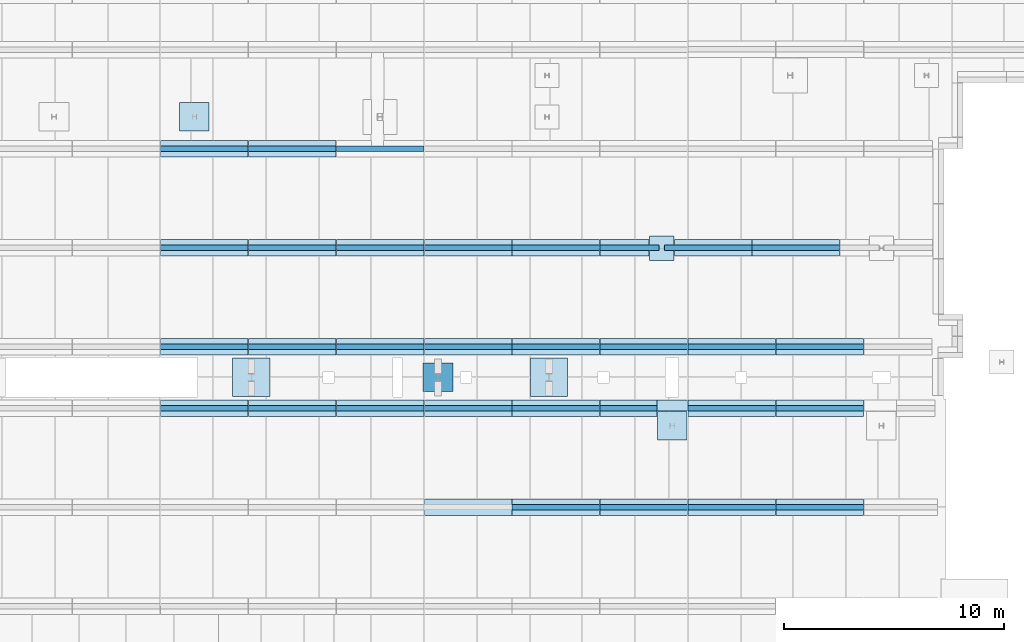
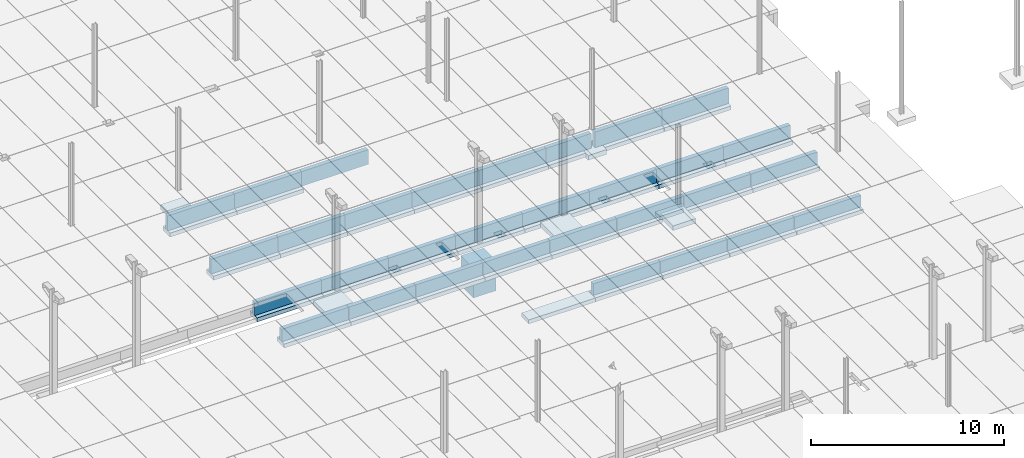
# One storey, part 8 of 59: 69 footings.
"""IFC2X3 building model written with IfcOpenShell, lengths in metres."""

from ifc_helpers import new_model, entity, si_unit, converted_unit, derived_unit, frame, frame_2d, origin, origin_with_axes, place, context, subcontext, project, spatial, rectangle, extrude, material, element, save


model = new_model("IFC2X3")

# Units and contexts
model_context = context("Model", 3, precision=1e-05, world=origin())
body_context = subcontext(model_context, "Body", "Model", "MODEL_VIEW")
ifc_project = project(units=[si_unit("LENGTHUNIT", "METRE"), si_unit("AREAUNIT", "SQUARE_METRE"), si_unit("VOLUMEUNIT", "CUBIC_METRE"), si_unit("MASSUNIT", "GRAM", prefix="KILO"), converted_unit("PLANEANGLEUNIT", "DEGREE", entity("IfcPlaneAngleMeasure", 0.0174532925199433), si_unit("PLANEANGLEUNIT", "RADIAN"), dimensions=[0, 0, 0, 0, 0, 0, 0]), derived_unit("THERMALTRANSMITTANCEUNIT", [(si_unit("POWERUNIT", "WATT"), 1), (si_unit("THERMODYNAMICTEMPERATUREUNIT", "KELVIN"), -1), (si_unit("LENGTHUNIT", "METRE"), -2)]), derived_unit("VOLUMETRICFLOWRATEUNIT", [(si_unit("LENGTHUNIT", "METRE"), 3), (converted_unit("TIMEUNIT", "hour", entity("IfcTimeMeasure", 3600.0), si_unit("TIMEUNIT", "SECOND"), dimensions=[0, 0, 1, 0, 0, 0, 0]), -1), (si_unit("LENGTHUNIT", "METRE"), -1)])], contexts=[model_context])

# Site, building, storey
site_placement = place(None, origin())
site = spatial("IfcSite", under=ifc_project, at=site_placement, Name="TWP_Speiseverteilzentrum SBW VZ II", CompositionType="ELEMENT")
building_placement = place(site_placement, origin())
building = spatial("IfcBuilding", under=site, at=building_placement, Name="Speiseverteilzentrum SBW VZ II", CompositionType="ELEMENT")
storey_placement = place(building_placement, frame((0.0, 0.0, 1.7307)))
storey = spatial("IfcBuildingStorey", under=building, at=storey_placement, Name="EG_Produktion_FFB", CompositionType="ELEMENT", Elevation=1.7307)

# Footings
ifc_material_1 = material(Name="Stahlbeton")
footing_1_placement = place(storey_placement, frame((55.8544595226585, 56.9296420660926, -1.75)))
element("IfcFooting", 1, at=footing_1_placement, inside=storey, material=ifc_material_1, Name="Stb.-Einzelfundament", ObjectType="COLUMN_FOUNDATION", PredefinedType="USERDEFINED", context=body_context, shape_type="SweptSolid", body=[
    extrude(rectangle(XDim=1.1, YDim=1.1, at=frame_2d((0.55, 0.55), x_axis=(1.0, 0.0))), origin_with_axes(), (0.0, 0.0, 1.0), 0.3),
])
ifc_material_2 = material(Name="Stahlbeton")
footing_2_placement = place(storey_placement, frame((56.2000000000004, 48.7500000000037, -1.35)))
element("IfcFooting", 2, at=footing_2_placement, inside=storey, material=ifc_material_2, Name="Stb.-Einzelfundament", ObjectType="COLUMN_FOUNDATION", PredefinedType="USERDEFINED", context=body_context, shape_type="SweptSolid", body=[
    extrude(rectangle(XDim=1.35, YDim=1.3, at=frame_2d((0.675, 0.65), x_axis=(1.0, 0.0))), origin_with_axes(), (0.0, 0.0, 1.0), 0.3),
])
ifc_material_3 = material(Name="Stahlbeton")
footing_3_placement = place(storey_placement, frame((50.4249999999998, 50.7251031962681, -1.35)))
element("IfcFooting", 3, at=footing_3_placement, inside=storey, material=ifc_material_3, Name="Stb.-Einzelfundament", ObjectType="COLUMN_FOUNDATION", PredefinedType="USERDEFINED", context=body_context, shape_type="SweptSolid", body=[
    extrude(rectangle(XDim=1.7, YDim=1.75, at=frame_2d((0.85, 0.875), x_axis=(1.0, 0.0))), origin_with_axes(), (0.0, 0.0, 1.0), 0.3),
])
ifc_material_4 = material(Name="Stahlbeton")
footing_4_placement = place(storey_placement, frame((45.5499999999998, 50.9501031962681, -3.21)))
element("IfcFooting", 4, at=footing_4_placement, inside=storey, material=ifc_material_4, Name="Stb.-Einzelfundament", ObjectType="COLUMN_FOUNDATION", PredefinedType="USERDEFINED", context=body_context, shape_type="SweptSolid", body=[
    extrude(rectangle(XDim=1.35, YDim=1.3, at=frame_2d((0.675, 0.65), x_axis=(1.0, 0.0))), origin_with_axes(), (0.0, 0.0, 1.0), 1.9),
])
ifc_material_5 = material(Name="Stahlbeton")
footing_5_placement = place(storey_placement, frame((36.8749999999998, 50.7251031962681, -1.57)))
element("IfcFooting", 5, at=footing_5_placement, inside=storey, material=ifc_material_5, Name="Stb.-Einzelfundament", ObjectType="COLUMN_FOUNDATION", PredefinedType="USERDEFINED", context=body_context, shape_type="SweptSolid", body=[
    extrude(rectangle(XDim=1.7, YDim=1.75, at=frame_2d((0.85, 0.875), x_axis=(1.0, 0.0))), origin_with_axes(), (0.0, 0.0, 1.0), 0.3),
])
ifc_material_6 = material(Name="Stahlbetonfertigteil")
footing_6_placement = place(storey_placement, frame((37.5999999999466, 50.0750000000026, -1.25)))
element("IfcFooting", 6, at=footing_6_placement, inside=storey, material=ifc_material_6, Name="Stahlbetonfertigteilfundament", PredefinedType="STRIP_FOOTING", context=body_context, shape_type="SweptSolid", body=[
    extrude(rectangle(XDim=0.25, YDim=0.78, at=frame_2d((0.125, 0.39), x_axis=(1.0, 0.0))), frame((0.0, 0.0, 0.0), z_axis=(1.0, 0.0, 0.0), x_axis=(0.0, 1.0, 0.0)), (0.0, 0.0, 1.0), 3.98),
])
ifc_material_7 = material(Name="Stahlbetonfertigteil")
footing_7_placement = place(storey_placement, frame((37.5999999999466, 49.8250000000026, -1.5)))
element("IfcFooting", 7, at=footing_7_placement, inside=storey, material=ifc_material_7, Name="Stahlbetonfertigteilfundament", PredefinedType="STRIP_FOOTING", context=body_context, shape_type="SweptSolid", body=[
    extrude(rectangle(XDim=0.75, YDim=0.25, at=frame_2d((0.375, 0.125), x_axis=(1.0, 0.0))), frame((0.0, 0.0, 0.0), z_axis=(1.0, 0.0, 0.0), x_axis=(0.0, 1.0, 0.0)), (0.0, 0.0, 1.0), 3.98),
])
ifc_material_8 = material(Name="Stahlbetonfertigteil")
footing_8_placement = place(storey_placement, frame((37.5999999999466, 52.8750000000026, -1.3)))
element("IfcFooting", 8, at=footing_8_placement, inside=storey, material=ifc_material_8, Name="Stahlbetonfertigteilfundament", PredefinedType="STRIP_FOOTING", context=body_context, shape_type="SweptSolid", body=[
    extrude(rectangle(XDim=0.25, YDim=0.83, at=frame_2d((0.125, 0.415), x_axis=(1.0, 0.0))), frame((0.0, 0.0, 0.0), z_axis=(1.0, 0.0, 0.0), x_axis=(0.0, 1.0, 0.0)), (0.0, 0.0, 1.0), 3.98),
])
ifc_material_9 = material(Name="Stahlbetonfertigteil")
footing_9_placement = place(storey_placement, frame((37.5999999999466, 52.6250000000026, -1.55)))
element("IfcFooting", 9, at=footing_9_placement, inside=storey, material=ifc_material_9, Name="Stahlbetonfertigteilfundament", PredefinedType="STRIP_FOOTING", context=body_context, shape_type="SweptSolid", body=[
    extrude(rectangle(XDim=0.75, YDim=0.25, at=frame_2d((0.375, 0.125), x_axis=(1.0, 0.0))), frame((0.0, 0.0, 0.0), z_axis=(1.0, 0.0, 0.0), x_axis=(0.0, 1.0, 0.0)), (0.0, 0.0, 1.0), 3.98),
])
ifc_material_10 = material(Name="Stahlbetonfertigteil")
footing_10_placement = place(storey_placement, frame((57.5999999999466, 52.8750000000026, -1.3)))
element("IfcFooting", 10, at=footing_10_placement, inside=storey, material=ifc_material_10, Name="Stahlbetonfertigteilfundament", PredefinedType="STRIP_FOOTING", context=body_context, shape_type="SweptSolid", body=[
    extrude(rectangle(XDim=0.25, YDim=0.83, at=frame_2d((0.125, 0.415), x_axis=(1.0, 0.0))), frame((0.0, 0.0, 0.0), z_axis=(1.0, 0.0, 0.0), x_axis=(0.0, 1.0, 0.0)), (0.0, 0.0, 1.0), 3.98),
])
ifc_material_11 = material(Name="Stahlbetonfertigteil")
footing_11_placement = place(storey_placement, frame((57.5999999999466, 52.6250000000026, -1.55)))
element("IfcFooting", 11, at=footing_11_placement, inside=storey, material=ifc_material_11, Name="Stahlbetonfertigteilfundament", PredefinedType="STRIP_FOOTING", context=body_context, shape_type="SweptSolid", body=[
    extrude(rectangle(XDim=0.75, YDim=0.25, at=frame_2d((0.375, 0.125), x_axis=(1.0, 0.0))), frame((0.0, 0.0, 0.0), z_axis=(1.0, 0.0, 0.0), x_axis=(0.0, 1.0, 0.0)), (0.0, 0.0, 1.0), 3.98),
])
ifc_material_12 = material(Name="Stahlbetonfertigteil")
footing_12_placement = place(storey_placement, frame((61.5999999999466, 52.8750000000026, -1.3)))
element("IfcFooting", 12, at=footing_12_placement, inside=storey, material=ifc_material_12, Name="Stahlbetonfertigteilfundament", PredefinedType="STRIP_FOOTING", context=body_context, shape_type="SweptSolid", body=[
    extrude(rectangle(XDim=0.25, YDim=0.83, at=frame_2d((0.125, 0.415), x_axis=(1.0, 0.0))), frame((0.0, 0.0, 0.0), z_axis=(1.0, 0.0, 0.0), x_axis=(0.0, 1.0, 0.0)), (0.0, 0.0, 1.0), 3.98),
])
ifc_material_13 = material(Name="Stahlbetonfertigteil")
footing_13_placement = place(storey_placement, frame((61.5999999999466, 52.6250000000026, -1.55)))
element("IfcFooting", 13, at=footing_13_placement, inside=storey, material=ifc_material_13, Name="Stahlbetonfertigteilfundament", PredefinedType="STRIP_FOOTING", context=body_context, shape_type="SweptSolid", body=[
    extrude(rectangle(XDim=0.75, YDim=0.25, at=frame_2d((0.375, 0.125), x_axis=(1.0, 0.0))), frame((0.0, 0.0, 0.0), z_axis=(1.0, 0.0, 0.0), x_axis=(0.0, 1.0, 0.0)), (0.0, 0.0, 1.0), 3.98),
])
ifc_material_14 = material(Name="Stahlbetonfertigteil")
footing_14_placement = place(storey_placement, frame((33.5999999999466, 57.3750000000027, -1.4)))
element("IfcFooting", 14, at=footing_14_placement, inside=storey, material=ifc_material_14, Name="Stahlbetonfertigteilfundament", PredefinedType="STRIP_FOOTING", context=body_context, shape_type="SweptSolid", body=[
    extrude(rectangle(XDim=0.25, YDim=0.93, at=frame_2d((0.125, 0.465), x_axis=(1.0, 0.0))), frame((0.0, 0.0, 0.0), z_axis=(1.0, 0.0, 0.0), x_axis=(0.0, 1.0, 0.0)), (0.0, 0.0, 1.0), 3.98),
])
ifc_material_15 = material(Name="Stahlbetonfertigteil")
footing_15_placement = place(storey_placement, frame((33.5999999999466, 57.1250000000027, -1.65)))
element("IfcFooting", 15, at=footing_15_placement, inside=storey, material=ifc_material_15, Name="Stahlbetonfertigteilfundament", PredefinedType="STRIP_FOOTING", context=body_context, shape_type="SweptSolid", body=[
    extrude(rectangle(XDim=0.75, YDim=0.25, at=frame_2d((0.375, 0.125), x_axis=(1.0, 0.0))), frame((0.0, 0.0, 0.0), z_axis=(1.0, 0.0, 0.0), x_axis=(0.0, 1.0, 0.0)), (0.0, 0.0, 1.0), 3.98),
])
ifc_material_16 = material(Name="Stahlbetonfertigteil")
footing_16_placement = place(storey_placement, frame((37.5999999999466, 57.3750000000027, -1.4)))
element("IfcFooting", 16, at=footing_16_placement, inside=storey, material=ifc_material_16, Name="Stahlbetonfertigteilfundament", PredefinedType="STRIP_FOOTING", context=body_context, shape_type="SweptSolid", body=[
    extrude(rectangle(XDim=0.25, YDim=0.93, at=frame_2d((0.125, 0.465), x_axis=(1.0, 0.0))), frame((0.0, 0.0, 0.0), z_axis=(1.0, 0.0, 0.0), x_axis=(0.0, 1.0, 0.0)), (0.0, 0.0, 1.0), 3.98),
])
ifc_material_17 = material(Name="Stahlbetonfertigteil")
footing_17_placement = place(storey_placement, frame((41.5999999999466, 57.3750000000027, -1.4)))
element("IfcFooting", 17, at=footing_17_placement, inside=storey, material=ifc_material_17, Name="Stahlbetonfertigteilfundament", PredefinedType="STRIP_FOOTING", context=body_context, shape_type="SweptSolid", body=[
    extrude(rectangle(XDim=0.25, YDim=0.93, at=frame_2d((0.125, 0.465), x_axis=(1.0, 0.0))), frame((0.0, 0.0, 0.0), z_axis=(1.0, 0.0, 0.0), x_axis=(0.0, 1.0, 0.0)), (0.0, 0.0, 1.0), 3.98),
])
ifc_material_18 = material(Name="Stahlbetonfertigteil")
footing_18_placement = place(storey_placement, frame((41.5999999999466, 57.1250000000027, -1.65)))
element("IfcFooting", 18, at=footing_18_placement, inside=storey, material=ifc_material_18, Name="Stahlbetonfertigteilfundament", PredefinedType="STRIP_FOOTING", context=body_context, shape_type="SweptSolid", body=[
    extrude(rectangle(XDim=0.75, YDim=0.25, at=frame_2d((0.375, 0.125), x_axis=(1.0, 0.0))), frame((0.0, 0.0, 0.0), z_axis=(1.0, 0.0, 0.0), x_axis=(0.0, 1.0, 0.0)), (0.0, 0.0, 1.0), 3.98),
])
ifc_material_19 = material(Name="Stahlbetonfertigteil")
footing_19_placement = place(storey_placement, frame((37.5999999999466, 57.1250000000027, -1.65)))
element("IfcFooting", 19, at=footing_19_placement, inside=storey, material=ifc_material_19, Name="Stahlbetonfertigteilfundament", PredefinedType="STRIP_FOOTING", context=body_context, shape_type="SweptSolid", body=[
    extrude(rectangle(XDim=0.75, YDim=0.25, at=frame_2d((0.375, 0.125), x_axis=(1.0, 0.0))), frame((0.0, 0.0, 0.0), z_axis=(1.0, 0.0, 0.0), x_axis=(0.0, 1.0, 0.0)), (0.0, 0.0, 1.0), 3.98),
])
ifc_material_20 = material(Name="Stahlbetonfertigteil")
footing_20_placement = place(storey_placement, frame((33.5999999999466, 61.8750000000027, -1.4)))
element("IfcFooting", 20, at=footing_20_placement, inside=storey, material=ifc_material_20, Name="Stahlbetonfertigteilfundament", PredefinedType="STRIP_FOOTING", context=body_context, shape_type="SweptSolid", body=[
    extrude(rectangle(XDim=0.25, YDim=0.93, at=frame_2d((0.125, 0.465), x_axis=(1.0, 0.0))), frame((0.0, 0.0, 0.0), z_axis=(1.0, 0.0, 0.0), x_axis=(0.0, 1.0, 0.0)), (0.0, 0.0, 1.0), 3.98),
])
ifc_material_21 = material(Name="Stahlbetonfertigteil")
footing_21_placement = place(storey_placement, frame((33.5999999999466, 61.6250000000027, -1.65)))
element("IfcFooting", 21, at=footing_21_placement, inside=storey, material=ifc_material_21, Name="Stahlbetonfertigteilfundament", PredefinedType="STRIP_FOOTING", context=body_context, shape_type="SweptSolid", body=[
    extrude(rectangle(XDim=0.75, YDim=0.25, at=frame_2d((0.375, 0.125), x_axis=(1.0, 0.0))), frame((0.0, 0.0, 0.0), z_axis=(1.0, 0.0, 0.0), x_axis=(0.0, 1.0, 0.0)), (0.0, 0.0, 1.0), 3.98),
])
ifc_material_22 = material(Name="Stahlbetonfertigteil")
footing_22_placement = place(storey_placement, frame((37.5999999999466, 61.8750000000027, -1.4)))
element("IfcFooting", 22, at=footing_22_placement, inside=storey, material=ifc_material_22, Name="Stahlbetonfertigteilfundament", PredefinedType="STRIP_FOOTING", context=body_context, shape_type="SweptSolid", body=[
    extrude(rectangle(XDim=0.25, YDim=0.93, at=frame_2d((0.125, 0.465), x_axis=(1.0, 0.0))), frame((0.0, 0.0, 0.0), z_axis=(1.0, 0.0, 0.0), x_axis=(0.0, 1.0, 0.0)), (0.0, 0.0, 1.0), 3.98),
])
ifc_material_23 = material(Name="Stahlbetonfertigteil")
footing_23_placement = place(storey_placement, frame((41.5999999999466, 61.8750000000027, -1.4)))
element("IfcFooting", 23, at=footing_23_placement, inside=storey, material=ifc_material_23, Name="Stahlbetonfertigteilfundament", PredefinedType="STRIP_FOOTING", context=body_context, shape_type="SweptSolid", body=[
    extrude(rectangle(XDim=0.25, YDim=0.93, at=frame_2d((0.125, 0.465), x_axis=(1.0, 0.0))), frame((0.0, 0.0, 0.0), z_axis=(1.0, 0.0, 0.0), x_axis=(0.0, 1.0, 0.0)), (0.0, 0.0, 1.0), 3.98),
])
ifc_material_24 = material(Name="Stahlbetonfertigteil")
footing_24_placement = place(storey_placement, frame((37.5999999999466, 61.6250000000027, -1.65)))
element("IfcFooting", 24, at=footing_24_placement, inside=storey, material=ifc_material_24, Name="Stahlbetonfertigteilfundament", PredefinedType="STRIP_FOOTING", context=body_context, shape_type="SweptSolid", body=[
    extrude(rectangle(XDim=0.75, YDim=0.25, at=frame_2d((0.375, 0.125), x_axis=(1.0, 0.0))), frame((0.0, 0.0, 0.0), z_axis=(1.0, 0.0, 0.0), x_axis=(0.0, 1.0, 0.0)), (0.0, 0.0, 1.0), 3.98),
])
ifc_material_25 = material(Name="Stahlbetonfertigteil")
footing_25_placement = place(storey_placement, frame((61.5999999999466, 45.5750000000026, -1.2)))
element("IfcFooting", 25, at=footing_25_placement, inside=storey, material=ifc_material_25, Name="Stahlbetonfertigteilfundament", PredefinedType="STRIP_FOOTING", context=body_context, shape_type="SweptSolid", body=[
    extrude(rectangle(XDim=0.25, YDim=0.73, at=frame_2d((0.125, 0.365), x_axis=(1.0, 0.0))), frame((0.0, 0.0, 0.0), z_axis=(1.0, 0.0, 0.0), x_axis=(0.0, 1.0, 0.0)), (0.0, 0.0, 1.0), 3.98),
])
ifc_material_26 = material(Name="Stahlbetonfertigteil")
footing_26_placement = place(storey_placement, frame((49.5999999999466, 45.5750000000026, -1.2)))
element("IfcFooting", 26, at=footing_26_placement, inside=storey, material=ifc_material_26, Name="Stahlbetonfertigteilfundament", PredefinedType="STRIP_FOOTING", context=body_context, shape_type="SweptSolid", body=[
    extrude(rectangle(XDim=0.25, YDim=0.73, at=frame_2d((0.125, 0.365), x_axis=(1.0, 0.0))), frame((0.0, 0.0, 0.0), z_axis=(1.0, 0.0, 0.0), x_axis=(0.0, 1.0, 0.0)), (0.0, 0.0, 1.0), 3.98),
])
ifc_material_27 = material(Name="Stahlbetonfertigteil")
footing_27_placement = place(storey_placement, frame((53.5999999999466, 45.5750000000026, -1.2)))
element("IfcFooting", 27, at=footing_27_placement, inside=storey, material=ifc_material_27, Name="Stahlbetonfertigteilfundament", PredefinedType="STRIP_FOOTING", context=body_context, shape_type="SweptSolid", body=[
    extrude(rectangle(XDim=0.25, YDim=0.73, at=frame_2d((0.125, 0.365), x_axis=(1.0, 0.0))), frame((0.0, 0.0, 0.0), z_axis=(1.0, 0.0, 0.0), x_axis=(0.0, 1.0, 0.0)), (0.0, 0.0, 1.0), 3.98),
])
ifc_material_28 = material(Name="Stahlbetonfertigteil")
footing_28_placement = place(storey_placement, frame((57.5999999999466, 45.5750000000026, -1.2)))
element("IfcFooting", 28, at=footing_28_placement, inside=storey, material=ifc_material_28, Name="Stahlbetonfertigteilfundament", PredefinedType="STRIP_FOOTING", context=body_context, shape_type="SweptSolid", body=[
    extrude(rectangle(XDim=0.25, YDim=0.73, at=frame_2d((0.125, 0.365), x_axis=(1.0, 0.0))), frame((0.0, 0.0, 0.0), z_axis=(1.0, 0.0, 0.0), x_axis=(0.0, 1.0, 0.0)), (0.0, 0.0, 1.0), 3.98),
])
ifc_material_29 = material(Name="Stahlbetonfertigteil")
footing_29_placement = place(storey_placement, frame((57.5999999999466, 45.3250000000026, -1.45)))
element("IfcFooting", 29, at=footing_29_placement, inside=storey, material=ifc_material_29, Name="Stahlbetonfertigteilfundament", PredefinedType="STRIP_FOOTING", context=body_context, shape_type="SweptSolid", body=[
    extrude(rectangle(XDim=0.75, YDim=0.25, at=frame_2d((0.375, 0.125), x_axis=(1.0, 0.0))), frame((0.0, 0.0, 0.0), z_axis=(1.0, 0.0, 0.0), x_axis=(0.0, 1.0, 0.0)), (0.0, 0.0, 1.0), 3.98),
])
ifc_material_30 = material(Name="Stahlbetonfertigteil")
footing_30_placement = place(storey_placement, frame((49.5999999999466, 45.3250000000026, -1.45)))
element("IfcFooting", 30, at=footing_30_placement, inside=storey, material=ifc_material_30, Name="Stahlbetonfertigteilfundament", PredefinedType="STRIP_FOOTING", context=body_context, shape_type="SweptSolid", body=[
    extrude(rectangle(XDim=0.75, YDim=0.25, at=frame_2d((0.375, 0.125), x_axis=(1.0, 0.0))), frame((0.0, 0.0, 0.0), z_axis=(1.0, 0.0, 0.0), x_axis=(0.0, 1.0, 0.0)), (0.0, 0.0, 1.0), 3.98),
])
ifc_material_31 = material(Name="Stahlbetonfertigteil")
footing_31_placement = place(storey_placement, frame((45.5999999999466, 45.3250000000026, -1.45)))
element("IfcFooting", 31, at=footing_31_placement, inside=storey, material=ifc_material_31, Name="Stahlbetonfertigteilfundament", PredefinedType="STRIP_FOOTING", context=body_context, shape_type="SweptSolid", body=[
    extrude(rectangle(XDim=0.75, YDim=0.25, at=frame_2d((0.375, 0.125), x_axis=(1.0, 0.0))), frame((0.0, 0.0, 0.0), z_axis=(1.0, 0.0, 0.0), x_axis=(0.0, 1.0, 0.0)), (0.0, 0.0, 1.0), 3.98),
])
ifc_material_32 = material(Name="Stahlbetonfertigteil")
footing_32_placement = place(storey_placement, frame((53.5999999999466, 45.3250000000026, -1.45)))
element("IfcFooting", 32, at=footing_32_placement, inside=storey, material=ifc_material_32, Name="Stahlbetonfertigteilfundament", PredefinedType="STRIP_FOOTING", context=body_context, shape_type="SweptSolid", body=[
    extrude(rectangle(XDim=0.75, YDim=0.25, at=frame_2d((0.375, 0.125), x_axis=(1.0, 0.0))), frame((0.0, 0.0, 0.0), z_axis=(1.0, 0.0, 0.0), x_axis=(0.0, 1.0, 0.0)), (0.0, 0.0, 1.0), 3.98),
])
ifc_material_33 = material(Name="Stahlbetonfertigteil")
footing_33_placement = place(storey_placement, frame((61.5999999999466, 45.3250000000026, -1.45)))
element("IfcFooting", 33, at=footing_33_placement, inside=storey, material=ifc_material_33, Name="Stahlbetonfertigteilfundament", PredefinedType="STRIP_FOOTING", context=body_context, shape_type="SweptSolid", body=[
    extrude(rectangle(XDim=0.75, YDim=0.25, at=frame_2d((0.375, 0.125), x_axis=(1.0, 0.0))), frame((0.0, 0.0, 0.0), z_axis=(1.0, 0.0, 0.0), x_axis=(0.0, 1.0, 0.0)), (0.0, 0.0, 1.0), 3.98),
])
ifc_material_34 = material(Name="Stahlbetonfertigteil")
footing_34_placement = place(storey_placement, frame((41.5999999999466, 50.0750000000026, -1.25)))
element("IfcFooting", 34, at=footing_34_placement, inside=storey, material=ifc_material_34, Name="Stahlbetonfertigteilfundament", PredefinedType="STRIP_FOOTING", context=body_context, shape_type="SweptSolid", body=[
    extrude(rectangle(XDim=0.25, YDim=0.78, at=frame_2d((0.125, 0.39), x_axis=(1.0, 0.0))), frame((0.0, 0.0, 0.0), z_axis=(1.0, 0.0, 0.0), x_axis=(0.0, 1.0, 0.0)), (0.0, 0.0, 1.0), 3.98),
])
ifc_material_35 = material(Name="Stahlbetonfertigteil")
footing_35_placement = place(storey_placement, frame((57.5999999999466, 50.0750000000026, -1.25)))
element("IfcFooting", 35, at=footing_35_placement, inside=storey, material=ifc_material_35, Name="Stahlbetonfertigteilfundament", PredefinedType="STRIP_FOOTING", context=body_context, shape_type="SweptSolid", body=[
    extrude(rectangle(XDim=0.25, YDim=0.78, at=frame_2d((0.125, 0.39), x_axis=(1.0, 0.0))), frame((0.0, 0.0, 0.0), z_axis=(1.0, 0.0, 0.0), x_axis=(0.0, 1.0, 0.0)), (0.0, 0.0, 1.0), 3.98),
])
ifc_material_36 = material(Name="Stahlbetonfertigteil")
footing_36_placement = place(storey_placement, frame((61.5999999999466, 50.0750000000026, -1.25)))
element("IfcFooting", 36, at=footing_36_placement, inside=storey, material=ifc_material_36, Name="Stahlbetonfertigteilfundament", PredefinedType="STRIP_FOOTING", context=body_context, shape_type="SweptSolid", body=[
    extrude(rectangle(XDim=0.25, YDim=0.78, at=frame_2d((0.125, 0.39), x_axis=(1.0, 0.0))), frame((0.0, 0.0, 0.0), z_axis=(1.0, 0.0, 0.0), x_axis=(0.0, 1.0, 0.0)), (0.0, 0.0, 1.0), 3.98),
])
ifc_material_37 = material(Name="Stahlbetonfertigteil")
footing_37_placement = place(storey_placement, frame((49.5999999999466, 50.0750000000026, -1.25)))
element("IfcFooting", 37, at=footing_37_placement, inside=storey, material=ifc_material_37, Name="Stahlbetonfertigteilfundament", PredefinedType="STRIP_FOOTING", context=body_context, shape_type="SweptSolid", body=[
    extrude(rectangle(XDim=0.25, YDim=0.78, at=frame_2d((0.125, 0.39), x_axis=(1.0, 0.0))), frame((0.0, 0.0, 0.0), z_axis=(1.0, 0.0, 0.0), x_axis=(0.0, 1.0, 0.0)), (0.0, 0.0, 1.0), 3.98),
])
ifc_material_38 = material(Name="Stahlbetonfertigteil")
footing_38_placement = place(storey_placement, frame((45.5999999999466, 50.0750000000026, -1.25)))
element("IfcFooting", 38, at=footing_38_placement, inside=storey, material=ifc_material_38, Name="Stahlbetonfertigteilfundament", PredefinedType="STRIP_FOOTING", context=body_context, shape_type="SweptSolid", body=[
    extrude(rectangle(XDim=0.25, YDim=0.78, at=frame_2d((0.125, 0.39), x_axis=(1.0, 0.0))), frame((0.0, 0.0, 0.0), z_axis=(1.0, 0.0, 0.0), x_axis=(0.0, 1.0, 0.0)), (0.0, 0.0, 1.0), 3.98),
])
ifc_material_39 = material(Name="Stahlbetonfertigteil")
footing_39_placement = place(storey_placement, frame((61.5999999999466, 49.8250000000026, -1.5)))
element("IfcFooting", 39, at=footing_39_placement, inside=storey, material=ifc_material_39, Name="Stahlbetonfertigteilfundament", PredefinedType="STRIP_FOOTING", context=body_context, shape_type="SweptSolid", body=[
    extrude(rectangle(XDim=0.75, YDim=0.25, at=frame_2d((0.375, 0.125), x_axis=(1.0, 0.0))), frame((0.0, 0.0, 0.0), z_axis=(1.0, 0.0, 0.0), x_axis=(0.0, 1.0, 0.0)), (0.0, 0.0, 1.0), 3.98),
])
ifc_material_40 = material(Name="Stahlbetonfertigteil")
footing_40_placement = place(storey_placement, frame((49.5999999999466, 49.8250000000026, -1.5)))
element("IfcFooting", 40, at=footing_40_placement, inside=storey, material=ifc_material_40, Name="Stahlbetonfertigteilfundament", PredefinedType="STRIP_FOOTING", context=body_context, shape_type="SweptSolid", body=[
    extrude(rectangle(XDim=0.75, YDim=0.25, at=frame_2d((0.375, 0.125), x_axis=(1.0, 0.0))), frame((0.0, 0.0, 0.0), z_axis=(1.0, 0.0, 0.0), x_axis=(0.0, 1.0, 0.0)), (0.0, 0.0, 1.0), 3.98),
])
ifc_material_41 = material(Name="Stahlbetonfertigteil")
footing_41_placement = place(storey_placement, frame((45.5999999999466, 49.8250000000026, -1.5)))
element("IfcFooting", 41, at=footing_41_placement, inside=storey, material=ifc_material_41, Name="Stahlbetonfertigteilfundament", PredefinedType="STRIP_FOOTING", context=body_context, shape_type="SweptSolid", body=[
    extrude(rectangle(XDim=0.75, YDim=0.25, at=frame_2d((0.375, 0.125), x_axis=(1.0, 0.0))), frame((0.0, 0.0, 0.0), z_axis=(1.0, 0.0, 0.0), x_axis=(0.0, 1.0, 0.0)), (0.0, 0.0, 1.0), 3.98),
])
ifc_material_42 = material(Name="Stahlbetonfertigteil")
footing_42_placement = place(storey_placement, frame((57.5999999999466, 49.8250000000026, -1.5)))
element("IfcFooting", 42, at=footing_42_placement, inside=storey, material=ifc_material_42, Name="Stahlbetonfertigteilfundament", PredefinedType="STRIP_FOOTING", context=body_context, shape_type="SweptSolid", body=[
    extrude(rectangle(XDim=0.75, YDim=0.25, at=frame_2d((0.375, 0.125), x_axis=(1.0, 0.0))), frame((0.0, 0.0, 0.0), z_axis=(1.0, 0.0, 0.0), x_axis=(0.0, 1.0, 0.0)), (0.0, 0.0, 1.0), 3.98),
])
ifc_material_43 = material(Name="Stahlbetonfertigteil")
footing_43_placement = place(storey_placement, frame((41.5999999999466, 52.8750000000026, -1.3)))
element("IfcFooting", 43, at=footing_43_placement, inside=storey, material=ifc_material_43, Name="Stahlbetonfertigteilfundament", PredefinedType="STRIP_FOOTING", context=body_context, shape_type="SweptSolid", body=[
    extrude(rectangle(XDim=0.25, YDim=0.83, at=frame_2d((0.125, 0.415), x_axis=(1.0, 0.0))), frame((0.0, 0.0, 0.0), z_axis=(1.0, 0.0, 0.0), x_axis=(0.0, 1.0, 0.0)), (0.0, 0.0, 1.0), 3.98),
])
ifc_material_44 = material(Name="Stahlbetonfertigteil")
footing_44_placement = place(storey_placement, frame((45.5999999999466, 52.8750000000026, -1.3)))
element("IfcFooting", 44, at=footing_44_placement, inside=storey, material=ifc_material_44, Name="Stahlbetonfertigteilfundament", PredefinedType="STRIP_FOOTING", context=body_context, shape_type="SweptSolid", body=[
    extrude(rectangle(XDim=0.25, YDim=0.83, at=frame_2d((0.125, 0.415), x_axis=(1.0, 0.0))), frame((0.0, 0.0, 0.0), z_axis=(1.0, 0.0, 0.0), x_axis=(0.0, 1.0, 0.0)), (0.0, 0.0, 1.0), 3.98),
])
ifc_material_45 = material(Name="Stahlbetonfertigteil")
footing_45_placement = place(storey_placement, frame((49.5999999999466, 52.8750000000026, -1.3)))
element("IfcFooting", 45, at=footing_45_placement, inside=storey, material=ifc_material_45, Name="Stahlbetonfertigteilfundament", PredefinedType="STRIP_FOOTING", context=body_context, shape_type="SweptSolid", body=[
    extrude(rectangle(XDim=0.25, YDim=0.83, at=frame_2d((0.125, 0.415), x_axis=(1.0, 0.0))), frame((0.0, 0.0, 0.0), z_axis=(1.0, 0.0, 0.0), x_axis=(0.0, 1.0, 0.0)), (0.0, 0.0, 1.0), 3.98),
])
ifc_material_46 = material(Name="Stahlbetonfertigteil")
footing_46_placement = place(storey_placement, frame((49.5999999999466, 52.6250000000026, -1.55)))
element("IfcFooting", 46, at=footing_46_placement, inside=storey, material=ifc_material_46, Name="Stahlbetonfertigteilfundament", PredefinedType="STRIP_FOOTING", context=body_context, shape_type="SweptSolid", body=[
    extrude(rectangle(XDim=0.75, YDim=0.25, at=frame_2d((0.375, 0.125), x_axis=(1.0, 0.0))), frame((0.0, 0.0, 0.0), z_axis=(1.0, 0.0, 0.0), x_axis=(0.0, 1.0, 0.0)), (0.0, 0.0, 1.0), 3.98),
])
ifc_material_47 = material(Name="Stahlbetonfertigteil")
footing_47_placement = place(storey_placement, frame((45.5999999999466, 52.6250000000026, -1.55)))
element("IfcFooting", 47, at=footing_47_placement, inside=storey, material=ifc_material_47, Name="Stahlbetonfertigteilfundament", PredefinedType="STRIP_FOOTING", context=body_context, shape_type="SweptSolid", body=[
    extrude(rectangle(XDim=0.75, YDim=0.25, at=frame_2d((0.375, 0.125), x_axis=(1.0, 0.0))), frame((0.0, 0.0, 0.0), z_axis=(1.0, 0.0, 0.0), x_axis=(0.0, 1.0, 0.0)), (0.0, 0.0, 1.0), 3.98),
])
ifc_material_48 = material(Name="Stahlbetonfertigteil")
footing_48_placement = place(storey_placement, frame((53.5999999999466, 52.6250000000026, -1.55)))
element("IfcFooting", 48, at=footing_48_placement, inside=storey, material=ifc_material_48, Name="Stahlbetonfertigteilfundament", PredefinedType="STRIP_FOOTING", context=body_context, shape_type="SweptSolid", body=[
    extrude(rectangle(XDim=0.75, YDim=0.25, at=frame_2d((0.375, 0.125), x_axis=(1.0, 0.0))), frame((0.0, 0.0, 0.0), z_axis=(1.0, 0.0, 0.0), x_axis=(0.0, 1.0, 0.0)), (0.0, 0.0, 1.0), 3.98),
])
ifc_material_49 = material(Name="Stahlbetonfertigteil")
footing_49_placement = place(storey_placement, frame((53.5999999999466, 52.8750000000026, -1.3)))
element("IfcFooting", 49, at=footing_49_placement, inside=storey, material=ifc_material_49, Name="Stahlbetonfertigteilfundament", PredefinedType="STRIP_FOOTING", context=body_context, shape_type="SweptSolid", body=[
    extrude(rectangle(XDim=0.25, YDim=0.83, at=frame_2d((0.125, 0.415), x_axis=(1.0, 0.0))), frame((0.0, 0.0, 0.0), z_axis=(1.0, 0.0, 0.0), x_axis=(0.0, 1.0, 0.0)), (0.0, 0.0, 1.0), 3.98),
])
ifc_material_50 = material(Name="Stahlbetonfertigteil")
footing_50_placement = place(storey_placement, frame((45.5999999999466, 57.3750000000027, -1.4)))
element("IfcFooting", 50, at=footing_50_placement, inside=storey, material=ifc_material_50, Name="Stahlbetonfertigteilfundament", PredefinedType="STRIP_FOOTING", context=body_context, shape_type="SweptSolid", body=[
    extrude(rectangle(XDim=0.25, YDim=0.93, at=frame_2d((0.125, 0.465), x_axis=(1.0, 0.0))), frame((0.0, 0.0, 0.0), z_axis=(1.0, 0.0, 0.0), x_axis=(0.0, 1.0, 0.0)), (0.0, 0.0, 1.0), 3.98),
])
ifc_material_51 = material(Name="Stahlbetonfertigteil")
footing_51_placement = place(storey_placement, frame((45.5999999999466, 57.1250000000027, -1.65)))
element("IfcFooting", 51, at=footing_51_placement, inside=storey, material=ifc_material_51, Name="Stahlbetonfertigteilfundament", PredefinedType="STRIP_FOOTING", context=body_context, shape_type="SweptSolid", body=[
    extrude(rectangle(XDim=0.75, YDim=0.25, at=frame_2d((0.375, 0.125), x_axis=(1.0, 0.0))), frame((0.0, 0.0, 0.0), z_axis=(1.0, 0.0, 0.0), x_axis=(0.0, 1.0, 0.0)), (0.0, 0.0, 1.0), 3.98),
])
ifc_material_52 = material(Name="Stahlbetonfertigteil")
footing_52_placement = place(storey_placement, frame((49.5999999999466, 57.3750000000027, -1.4)))
element("IfcFooting", 52, at=footing_52_placement, inside=storey, material=ifc_material_52, Name="Stahlbetonfertigteilfundament", PredefinedType="STRIP_FOOTING", context=body_context, shape_type="SweptSolid", body=[
    extrude(rectangle(XDim=0.25, YDim=0.93, at=frame_2d((0.125, 0.465), x_axis=(1.0, 0.0))), frame((0.0, 0.0, 0.0), z_axis=(1.0, 0.0, 0.0), x_axis=(0.0, 1.0, 0.0)), (0.0, 0.0, 1.0), 3.98),
])
ifc_material_53 = material(Name="Stahlbetonfertigteil")
footing_53_placement = place(storey_placement, frame((49.5999999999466, 57.1250000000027, -1.65)))
element("IfcFooting", 53, at=footing_53_placement, inside=storey, material=ifc_material_53, Name="Stahlbetonfertigteilfundament", PredefinedType="STRIP_FOOTING", context=body_context, shape_type="SweptSolid", body=[
    extrude(rectangle(XDim=0.75, YDim=0.25, at=frame_2d((0.375, 0.125), x_axis=(1.0, 0.0))), frame((0.0, 0.0, 0.0), z_axis=(1.0, 0.0, 0.0), x_axis=(0.0, 1.0, 0.0)), (0.0, 0.0, 1.0), 3.98),
])
ifc_material_54 = material(Name="Stahlbetonfertigteil")
footing_54_placement = place(storey_placement, frame((33.5999999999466, 50.0750000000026, -1.25)))
element("IfcFooting", 54, at=footing_54_placement, inside=storey, material=ifc_material_54, Name="Stahlbetonfertigteilfundament", PredefinedType="STRIP_FOOTING", context=body_context, shape_type="SweptSolid", body=[
    extrude(rectangle(XDim=0.25, YDim=0.78, at=frame_2d((0.125, 0.39), x_axis=(1.0, 0.0))), frame((0.0, 0.0, 0.0), z_axis=(1.0, 0.0, 0.0), x_axis=(0.0, 1.0, 0.0)), (0.0, 0.0, 1.0), 3.98),
])
ifc_material_55 = material(Name="Stahlbetonfertigteil")
footing_55_placement = place(storey_placement, frame((33.5999999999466, 49.8250000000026, -1.5)))
element("IfcFooting", 55, at=footing_55_placement, inside=storey, material=ifc_material_55, Name="Stahlbetonfertigteilfundament", PredefinedType="STRIP_FOOTING", context=body_context, shape_type="SweptSolid", body=[
    extrude(rectangle(XDim=0.75, YDim=0.25, at=frame_2d((0.375, 0.125), x_axis=(1.0, 0.0))), frame((0.0, 0.0, 0.0), z_axis=(1.0, 0.0, 0.0), x_axis=(0.0, 1.0, 0.0)), (0.0, 0.0, 1.0), 3.98),
])
ifc_material_56 = material(Name="Stahlbetonfertigteil")
footing_56_placement = place(storey_placement, frame((33.5999999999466, 52.8750000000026, -1.3)))
element("IfcFooting", 56, at=footing_56_placement, inside=storey, material=ifc_material_56, Name="Stahlbetonfertigteilfundament", PredefinedType="STRIP_FOOTING", context=body_context, shape_type="SweptSolid", body=[
    extrude(rectangle(XDim=0.25, YDim=0.83, at=frame_2d((0.125, 0.415), x_axis=(1.0, 0.0))), frame((0.0, 0.0, 0.0), z_axis=(1.0, 0.0, 0.0), x_axis=(0.0, 1.0, 0.0)), (0.0, 0.0, 1.0), 3.98),
])
ifc_material_57 = material(Name="Stahlbetonfertigteil")
footing_57_placement = place(storey_placement, frame((33.5999999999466, 52.6250000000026, -1.55)))
element("IfcFooting", 57, at=footing_57_placement, inside=storey, material=ifc_material_57, Name="Stahlbetonfertigteilfundament", PredefinedType="STRIP_FOOTING", context=body_context, shape_type="SweptSolid", body=[
    extrude(rectangle(XDim=0.75, YDim=0.25, at=frame_2d((0.375, 0.125), x_axis=(1.0, 0.0))), frame((0.0, 0.0, 0.0), z_axis=(1.0, 0.0, 0.0), x_axis=(0.0, 1.0, 0.0)), (0.0, 0.0, 1.0), 3.98),
])
ifc_material_58 = material(Name="Stahlbetonfertigteil")
footing_58_placement = place(storey_placement, frame((41.5999999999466, 52.6250000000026, -1.55)))
element("IfcFooting", 58, at=footing_58_placement, inside=storey, material=ifc_material_58, Name="Stahlbetonfertigteilfundament", PredefinedType="STRIP_FOOTING", context=body_context, shape_type="SweptSolid", body=[
    extrude(rectangle(XDim=0.75, YDim=0.25, at=frame_2d((0.375, 0.125), x_axis=(1.0, 0.0))), frame((0.0, 0.0, 0.0), z_axis=(1.0, 0.0, 0.0), x_axis=(0.0, 1.0, 0.0)), (0.0, 0.0, 1.0), 3.98),
])
ifc_material_59 = material(Name="Stahlbetonfertigteil")
footing_59_placement = place(storey_placement, frame((41.5999999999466, 49.8250000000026, -1.5)))
element("IfcFooting", 59, at=footing_59_placement, inside=storey, material=ifc_material_59, Name="Stahlbetonfertigteilfundament", PredefinedType="STRIP_FOOTING", context=body_context, shape_type="SweptSolid", body=[
    extrude(rectangle(XDim=0.75, YDim=0.25, at=frame_2d((0.375, 0.125), x_axis=(1.0, 0.0))), frame((0.0, 0.0, 0.0), z_axis=(1.0, 0.0, 0.0), x_axis=(0.0, 1.0, 0.0)), (0.0, 0.0, 1.0), 3.98),
])
ifc_material_60 = material(Name="Stahlbetonfertigteil")
footing_60_placement = place(storey_placement, frame((60.5194595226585, 57.3750000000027, -1.45)))
element("IfcFooting", 60, at=footing_60_placement, inside=storey, material=ifc_material_60, Name="Stahlbetonfertigteilfundament", PredefinedType="STRIP_FOOTING", context=body_context, shape_type="SweptSolid", body=[
    extrude(rectangle(XDim=0.25, YDim=0.98, at=frame_2d((0.125, 0.49), x_axis=(1.0, 0.0))), frame((0.0, 0.0, 0.0), z_axis=(1.0, 0.0, 0.0), x_axis=(0.0, 1.0, 0.0)), (0.0, 0.0, 1.0), 3.98),
])
ifc_material_61 = material(Name="Stahlbetonfertigteil")
footing_61_placement = place(storey_placement, frame((60.5194595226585, 57.1250000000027, -1.7)))
element("IfcFooting", 61, at=footing_61_placement, inside=storey, material=ifc_material_61, Name="Stahlbetonfertigteilfundament", PredefinedType="STRIP_FOOTING", context=body_context, shape_type="SweptSolid", body=[
    extrude(rectangle(XDim=0.75, YDim=0.25, at=frame_2d((0.375, 0.125), x_axis=(1.0, 0.0))), frame((0.0, 0.0, 0.0), z_axis=(1.0, 0.0, 0.0), x_axis=(0.0, 1.0, 0.0)), (0.0, 0.0, 1.0), 3.98),
])
ifc_material_62 = material(Name="Stahlbetonfertigteil")
footing_62_placement = place(storey_placement, frame((53.5999999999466, 57.1250000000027, -1.65)))
element("IfcFooting", 62, at=footing_62_placement, inside=storey, material=ifc_material_62, Name="Stahlbetonfertigteilfundament", PredefinedType="STRIP_FOOTING", context=body_context, shape_type="SweptSolid", body=[
    extrude(rectangle(XDim=0.75, YDim=0.25, at=frame_2d((0.375, 0.125), x_axis=(1.0, 0.0))), frame((0.0, 0.0, 0.0), z_axis=(1.0, 0.0, 0.0), x_axis=(0.0, 1.0, 0.0)), (0.0, 0.0, 1.0), 2.23445952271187),
])
ifc_material_63 = material(Name="Stahlbetonfertigteil")
footing_63_placement = place(storey_placement, frame((56.9744595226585, 57.1250000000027, -1.7)))
element("IfcFooting", 63, at=footing_63_placement, inside=storey, material=ifc_material_63, Name="Stahlbetonfertigteilfundament", PredefinedType="STRIP_FOOTING", context=body_context, shape_type="SweptSolid", body=[
    extrude(rectangle(XDim=0.75, YDim=0.25, at=frame_2d((0.375, 0.125), x_axis=(1.0, 0.0))), frame((0.0, 0.0, 0.0), z_axis=(1.0, 0.0, 0.0), x_axis=(0.0, 1.0, 0.0)), (0.0, 0.0, 1.0), 3.525),
])
ifc_material_64 = material(Name="Stahlbetonfertigteil")
footing_64_placement = place(storey_placement, frame((56.5194595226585, 57.3750000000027, -1.45)))
element("IfcFooting", 64, at=footing_64_placement, inside=storey, material=ifc_material_64, Name="Stahlbetonfertigteilfundament", PredefinedType="STRIP_FOOTING", context=body_context, shape_type="SweptSolid", body=[
    extrude(rectangle(XDim=0.25, YDim=0.98, at=frame_2d((0.125, 0.49), x_axis=(1.0, 0.0))), frame((0.0, 0.0, 0.0), z_axis=(1.0, 0.0, 0.0), x_axis=(0.0, 1.0, 0.0)), (0.0, 0.0, 1.0), 3.98),
])
ifc_material_65 = material(Name="Stahlbetonfertigteil")
footing_65_placement = place(storey_placement, frame((53.5999999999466, 57.3750000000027, -1.4)))
element("IfcFooting", 65, at=footing_65_placement, inside=storey, material=ifc_material_65, Name="Stahlbetonfertigteilfundament", PredefinedType="STRIP_FOOTING", context=body_context, shape_type="SweptSolid", body=[
    extrude(rectangle(XDim=0.25, YDim=0.93, at=frame_2d((0.125, 0.465), x_axis=(1.0, 0.0))), frame((0.0, 0.0, 0.0), z_axis=(1.0, 0.0, 0.0), x_axis=(0.0, 1.0, 0.0)), (0.0, 0.0, 1.0), 2.68945952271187),
])
ifc_material_66 = material(Name="Stahlbetonfertigteil")
footing_66_placement = place(storey_placement, frame((53.5999999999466, 50.0750000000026, -1.25)))
element("IfcFooting", 66, at=footing_66_placement, inside=storey, material=ifc_material_66, Name="Stahlbetonfertigteilfundament", PredefinedType="STRIP_FOOTING", context=body_context, shape_type="SweptSolid", body=[
    extrude(rectangle(XDim=0.25, YDim=0.78, at=frame_2d((0.125, 0.39), x_axis=(1.0, 0.0))), frame((0.0, 0.0, 0.0), z_axis=(1.0, 0.0, 0.0), x_axis=(0.0, 1.0, 0.0)), (0.0, 0.0, 1.0), 3.98),
])
ifc_material_67 = material(Name="Stahlbetonfertigteil")
footing_67_placement = place(storey_placement, frame((56.1800000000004, 50.0750000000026, -1.5)))
element("IfcFooting", 67, at=footing_67_placement, inside=storey, material=ifc_material_67, Name="Stahlbetonfertigteilfundament", PredefinedType="STRIP_FOOTING", context=body_context, shape_type="SweptSolid", body=[
    extrude(rectangle(XDim=0.5, YDim=0.25, at=frame_2d((0.25, 0.125), x_axis=(1.0, 0.0))), frame((0.0, 0.0, 0.0), z_axis=(1.0, 0.0, 0.0), x_axis=(0.0, 1.0, 0.0)), (0.0, 0.0, 1.0), 1.39999999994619),
])
ifc_material_68 = material(Name="Stahlbetonfertigteil")
footing_68_placement = place(storey_placement, frame((53.5999999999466, 49.8250000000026, -1.5)))
element("IfcFooting", 68, at=footing_68_placement, inside=storey, material=ifc_material_68, Name="Stahlbetonfertigteilfundament", PredefinedType="STRIP_FOOTING", context=body_context, shape_type="SweptSolid", body=[
    extrude(rectangle(XDim=0.75, YDim=0.25, at=frame_2d((0.375, 0.125), x_axis=(1.0, 0.0))), frame((0.0, 0.0, 0.0), z_axis=(1.0, 0.0, 0.0), x_axis=(0.0, 1.0, 0.0)), (0.0, 0.0, 1.0), 2.58000000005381),
])
ifc_material_69 = material(Name="Stahlbeton")
footing_69_placement = place(storey_placement, frame((34.4647596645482, 62.8074932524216, -1.7)))
element("IfcFooting", 69, at=footing_69_placement, inside=storey, material=ifc_material_69, Name="Stb.-Einzelfundament", ObjectType="COLUMN_FOUNDATION", PredefinedType="USERDEFINED", context=body_context, shape_type="SweptSolid", body=[
    extrude(rectangle(XDim=1.35, YDim=1.3, at=frame_2d((0.675, 0.65), x_axis=(1.0, 0.0))), origin_with_axes(), (0.0, 0.0, 1.0), 0.3),
])

save(model, "model.ifc")
